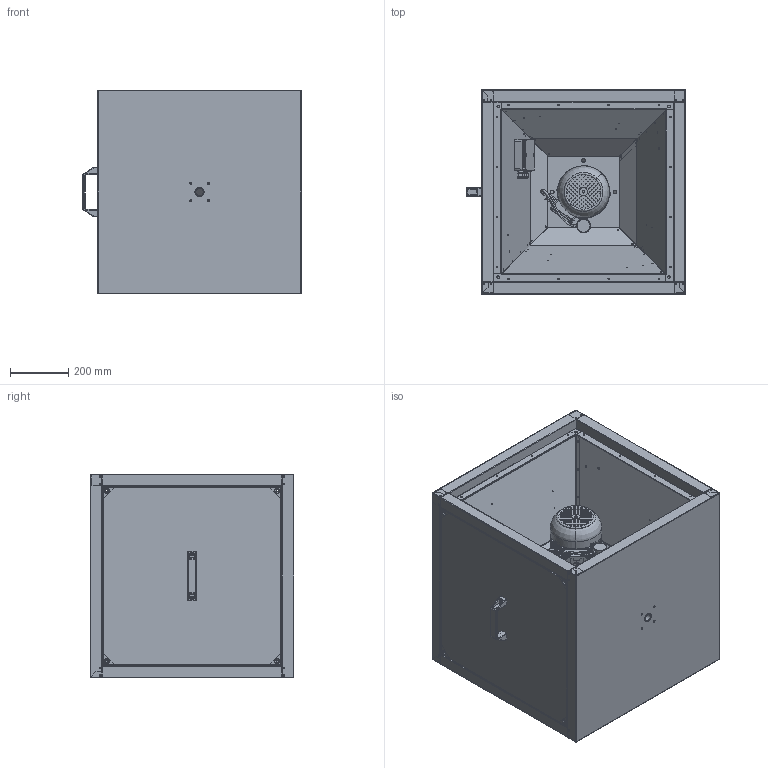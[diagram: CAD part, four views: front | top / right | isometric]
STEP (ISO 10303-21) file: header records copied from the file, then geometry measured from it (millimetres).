
FILE_DESCRIPTION (( 'STEP AP203' ), '1' );
FILE_NAME ('141186-00_MPC500E4T22.STEP', '2017-10-05T12:17:16', ( '' ), ( '' ), 'SwSTEP 2.0', 'SolidWorks 2012', '' );
FILE_SCHEMA (( 'CONFIG_CONTROL_DESIGN' ));
Products named in the file (1): 141186-00_MPC500E4T22
Bounding box: 752 x 700.1 x 700 mm (x, y, z)
Surface area: 6810767.8 mm2 (no closed solid volume)
Topology: 0 solids, 231 shells, 1616 faces, 7374 edges, 5902 vertices
Faces by surface type: plane 851, cylinder 625, cone 48, torus 46, bspline 46
Entity records: 84213 total; most frequent: CARTESIAN_POINT 25617, DIRECTION 12101, ORIENTED_EDGE 9652, EDGE_CURVE 7374, VERTEX_POINT 5902, VECTOR 4359, LINE 4359, AXIS2_PLACEMENT_3D 3871
